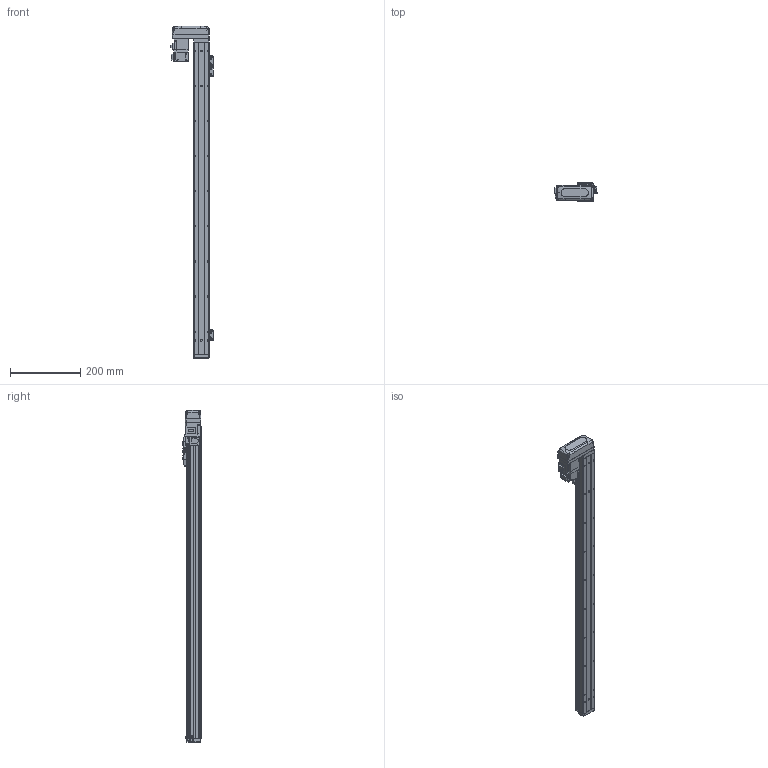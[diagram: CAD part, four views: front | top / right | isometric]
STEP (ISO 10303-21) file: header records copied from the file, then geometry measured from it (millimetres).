
FILE_DESCRIPTION (( 'STEP AP203' ), '1' );
FILE_NAME ('GTH4-750-BR-M05-C4.step', '2023-08-28T00:45:07', ( '微软用户' ), ( '微软中国' ), 'SwSTEP 2.0', 'SolidWorks 2020', '' );
FILE_SCHEMA (( 'CONFIG_CONTROL_DESIGN' ));
Length unit declared in the file: millimetre
Products named in the file (19): BTH50-026; GBT70.1-2000 M3×16; GBT 70.1-M2.5×6; GTH4-750-BR-M05-C4; BTH50-028; BTH40-004; BTH50-023; BTH40-013; BTH40-001-50_BTH40-001-750; BTH50-024; HG-KR13; BTH40-003; GBT 70.1-M3℅6; GBT 70.3-M3℅6; BTH40-006; GBT96.1-2002 3×0.8; BTH40-027-1; BTH-M3X5X6; BTH40-022
Assembly tree (47 placements, depth 2):
  GTH4-750-BR-M05-C4
    BTH40-001-50_BTH40-001-750
    BTH40-003
    BTH40-006
    BTH-M3X5X6  x8
    GBT70.1-2000 M3×16  x4
    BTH50-028  x2
    BTH50-023  x3
    BTH50-024  x3
    GBT 70.1-M3℅6  x6
    GBT96.1-2002 3×0.8  x6
    BTH40-022
    GBT 70.1-M2.5×6  x2
    BTH40-004
    BTH40-013
    HG-KR13
    GBT 70.3-M3℅6  x4
    BTH40-027-1
    BTH50-026
Bounding box: 120 x 52 x 946 mm (x, y, z)
Volume: 1646381.1 mm3; surface area: 277067 mm2
Topology: 49 solids, 49 shells, 1995 faces, 4695 edges, 2890 vertices
Faces by surface type: plane 1052, cylinder 507, cone 270, torus 128, bspline 34, sphere 4
Entity records: 40135 total; most frequent: CARTESIAN_POINT 7666, DIRECTION 6308, ORIENTED_EDGE 6036, EDGE_CURVE 3018, AXIS2_PLACEMENT_3D 2167, VECTOR 1974, LINE 1974, VERTEX_POINT 1877
